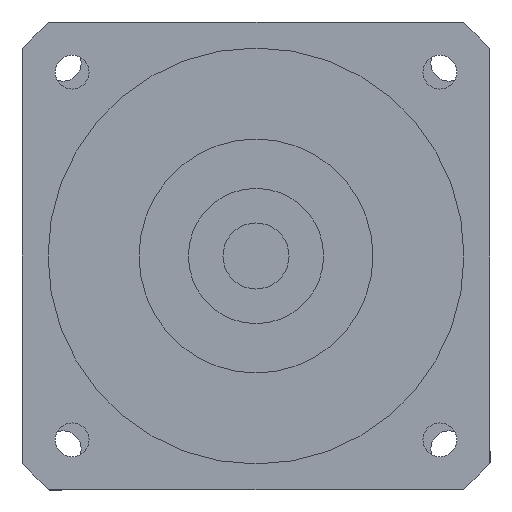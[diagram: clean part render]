
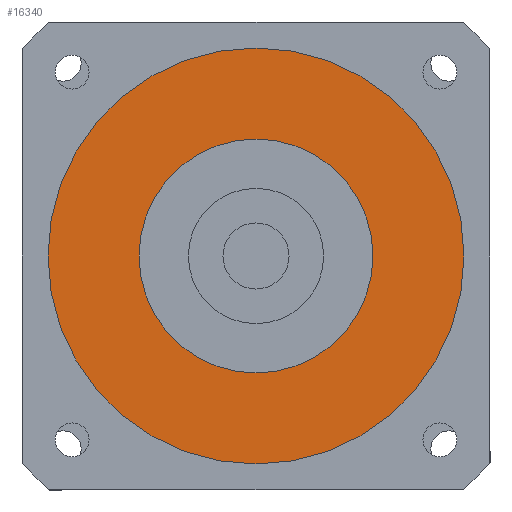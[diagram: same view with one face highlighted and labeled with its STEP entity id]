
A CAD part, left-side view. The second image highlights one B-rep face of the part: STEP entity #16340.
In plain terms, the highlighted planar face has unit normal (-1, 0, 0) as drawn and (0, 0, -1) by its records, which use the part's own axes.
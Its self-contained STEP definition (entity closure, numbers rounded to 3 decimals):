
#15730=CARTESIAN_POINT('',(0.,0.,
-129.));
#15740=DIRECTION('',(0.,0.,1.));
#15750=DIRECTION('',(0.,-1.,0.));
#15760=AXIS2_PLACEMENT_3D('',#15730,#15740,#15750);
#15770=CIRCLE('',#15760,22.5);
#15780=CARTESIAN_POINT('',(0.,-22.5,-129.));
#15790=VERTEX_POINT('',#15780);
#15800=CARTESIAN_POINT('',(22.5,0.,-129.));
#15810=VERTEX_POINT('',#15800);
#15820=EDGE_CURVE('',#15790,#15810,#15770,.T.);
#15950=CARTESIAN_POINT('',(-22.5,0.,-129.));
#15960=VERTEX_POINT('',#15950);
#15990=EDGE_CURVE('',#15960,#15790,#15770,.T.);
#16040=CARTESIAN_POINT('',(0.,0.,
-129.));
#16050=DIRECTION('',(0.,0.,1.));
#16060=DIRECTION('',(-1.,0.,0.));
#16070=AXIS2_PLACEMENT_3D('',#16040,#16050,#16060);
#16080=PLANE('',#16070);
#16090=CARTESIAN_POINT('',(0.,0.,
-129.));
#16100=DIRECTION('',(0.,0.,1.));
#16110=DIRECTION('',(0.,-1.,0.));
#16120=AXIS2_PLACEMENT_3D('',#16090,#16100,#16110);
#16130=CIRCLE('',#16120,40.);
#16140=CARTESIAN_POINT('',(0.,-40.,-129.));
#16150=VERTEX_POINT('',#16140);
#16160=CARTESIAN_POINT('',(40.,0.,-129.));
#16170=VERTEX_POINT('',#16160);
#16180=EDGE_CURVE('',#16150,#16170,#16130,.T.);
#16190=ORIENTED_EDGE('',*,*,#16180,.F.);
#16200=CARTESIAN_POINT('',(-40.,0.,-129.));
#16210=VERTEX_POINT('',#16200);
#16220=EDGE_CURVE('',#16170,#16210,#16130,.T.);
#16230=ORIENTED_EDGE('',*,*,#16220,.F.);
#16240=EDGE_CURVE('',#16210,#16150,#16130,.T.);
#16250=ORIENTED_EDGE('',*,*,#16240,.F.);
#16260=EDGE_LOOP('',(#16250,#16230,#16190));
#16270=FACE_OUTER_BOUND('',#16260,.T.);
#16280=EDGE_CURVE('',#15810,#15960,#15770,.T.);
#16290=ORIENTED_EDGE('',*,*,#16280,.T.);
#16300=ORIENTED_EDGE('',*,*,#15820,.T.);
#16310=ORIENTED_EDGE('',*,*,#15990,.T.);
#16320=EDGE_LOOP('',(#16310,#16300,#16290));
#16330=FACE_BOUND('',#16320,.T.);
#16340=ADVANCED_FACE('',(#16270,#16330),#16080,.F.);
